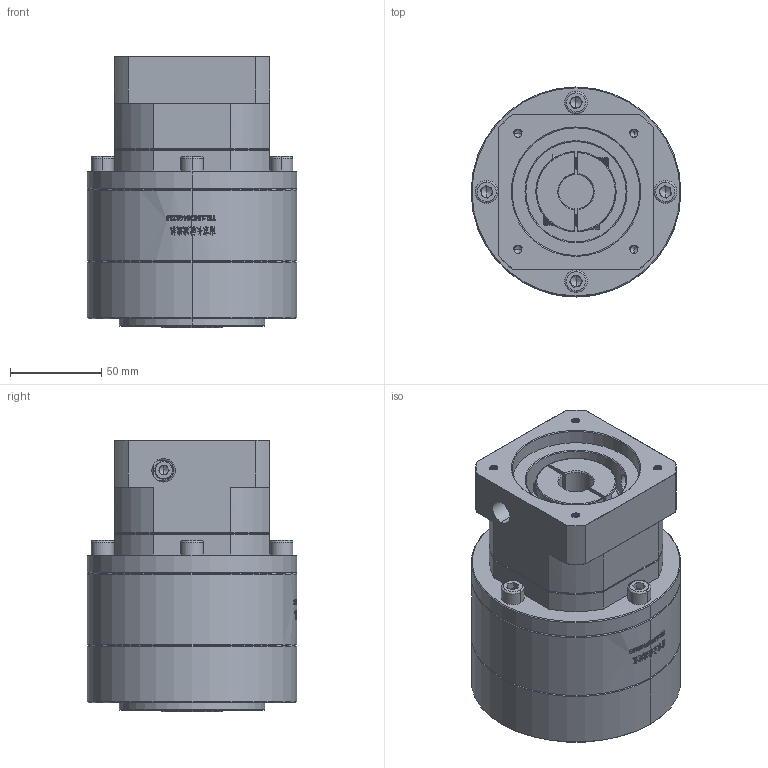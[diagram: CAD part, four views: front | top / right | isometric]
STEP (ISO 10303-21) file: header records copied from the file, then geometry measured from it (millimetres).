
FILE_DESCRIPTION (( 'STEP AP214' ), '1' );
FILE_NAME ('ZE120A-K25-L2-19-70-90-M5.step', '2023-03-13T06:53:37', ( '' ), ( '' ), 'SwSTEP 2.0', 'SolidWorks 2016', '' );
FILE_SCHEMA (( 'AUTOMOTIVE_DESIGN' ));
Length unit declared in the file: millimetre
Products named in the file (1): ZE120A-K25-L2-19-70-90-M5
Bounding box: 115 x 115 x 149 mm (x, y, z)
Volume: 1173819.9 mm3; surface area: 117918.2 mm2
Topology: 5 solids, 5 shells, 1935 faces, 5141 edges, 3294 vertices
Faces by surface type: plane 849, cylinder 461, bspline 339, cone 286
Entity records: 110385 total; most frequent: CARTESIAN_POINT 45509, ORIENTED_EDGE 10210, DIRECTION 7562, EDGE_CURVE 5105, VERTEX_POINT 3294, LINE 2732, VECTOR 2732, AXIS2_PLACEMENT_3D 2415
